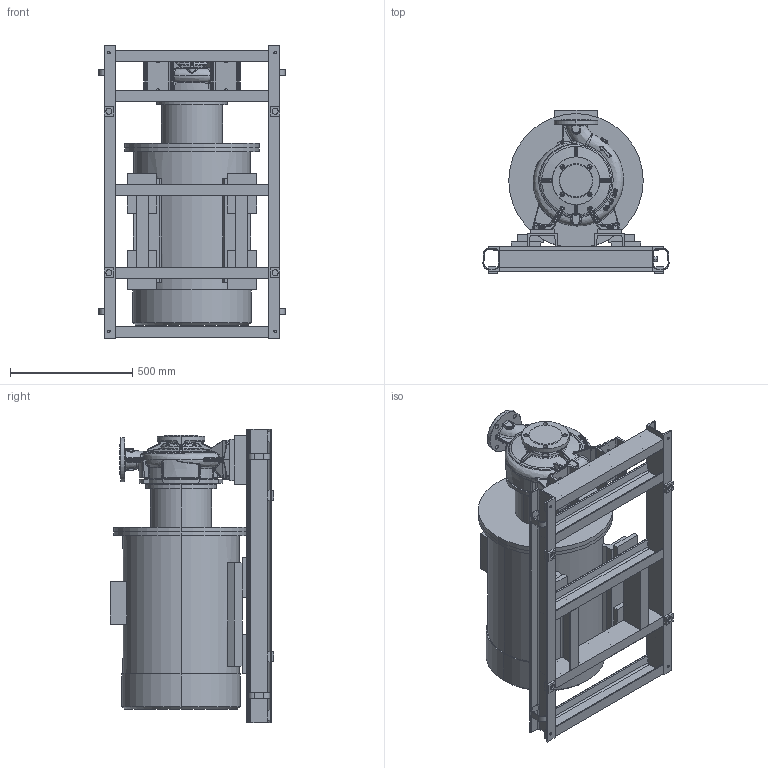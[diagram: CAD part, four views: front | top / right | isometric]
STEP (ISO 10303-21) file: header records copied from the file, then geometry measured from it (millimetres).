
FILE_DESCRIPTION (( 'STEP AP203' ), '1' );
FILE_NAME ('KRM80-65-250-2-55.STEP', '2026-09-08T12:56:14', ( '' ), ( '' ), 'SwSTEP 2.0', 'SolidWorks 2016', '' );
FILE_SCHEMA (( 'CONFIG_CONTROL_DESIGN' ));
Products named in the file (1): KRM80-65-250-2-55
Bounding box: 761.08 x 670 x 1200 mm (x, y, z)
Volume: 174364230.1 mm3; surface area: 6203968.3 mm2
Topology: 42 solids, 42 shells, 1531 faces, 3708 edges, 2273 vertices
Faces by surface type: bspline 507, plane 482, cylinder 345, cone 85, torus 75, sphere 37
Entity records: 105681 total; most frequent: CARTESIAN_POINT 73597, ORIENTED_EDGE 7366, DIRECTION 5649, EDGE_CURVE 3683, VERTEX_POINT 2273, AXIS2_PLACEMENT_3D 2144, EDGE_LOOP 1650, ADVANCED_FACE 1531
